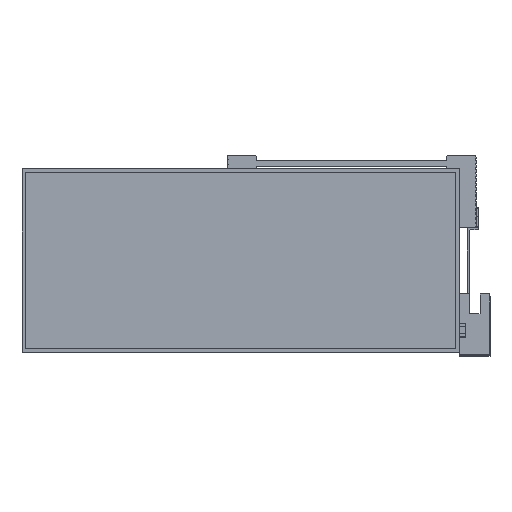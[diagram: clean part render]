
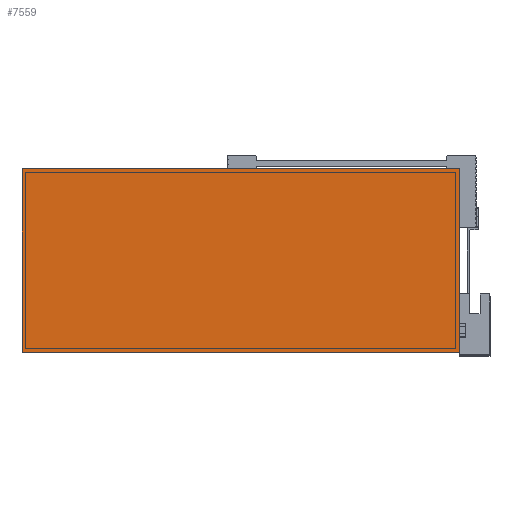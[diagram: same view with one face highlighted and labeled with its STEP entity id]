
A CAD part, top view. The second image highlights one B-rep face of the part: STEP entity #7559.
In plain terms, the highlighted planar face has unit normal (0, 0, 1) as drawn and (0, -1, 0) by its records, which use the part's own axes.
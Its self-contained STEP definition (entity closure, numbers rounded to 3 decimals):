
#488 = DIRECTION ( 'NONE',  ( -1., 0., 0. ) ) ;
#7559 = ADVANCED_FACE ( 'NONE', ( #91186 ), #42396, .T. ) ;
#8484 = CARTESIAN_POINT ( 'NONE',  ( -96.5, 0., 40.5 ) ) ;
#18245 = VERTEX_POINT ( 'NONE', #65041 ) ;
#19171 = DIRECTION ( 'NONE',  ( 1., 0., 0. ) ) ;
#22335 = EDGE_LOOP ( 'NONE', ( #120658, #116616, #103541, #30070 ) ) ;
#30070 = ORIENTED_EDGE ( 'NONE', *, *, #128594, .F. ) ;
#32696 = AXIS2_PLACEMENT_3D ( 'NONE', #53139, #127735, #63858 ) ;
#41482 = LINE ( 'NONE', #128295, #123249 ) ;
#41837 = EDGE_CURVE ( 'NONE', #74833, #18245, #98628, .T. ) ;
#42396 = PLANE ( 'NONE',  #32696 ) ;
#46329 = EDGE_CURVE ( 'NONE', #126027, #55170, #112134, .T. ) ;
#49087 = DIRECTION ( 'NONE',  ( 0., 0., -1. ) ) ;
#53139 = CARTESIAN_POINT ( 'NONE',  ( 0., 0., 0. ) ) ;
#55170 = VERTEX_POINT ( 'NONE', #137932 ) ;
#63858 = DIRECTION ( 'NONE',  ( 0., 0., -1. ) ) ;
#65041 = CARTESIAN_POINT ( 'NONE',  ( 96.5, 0., -40.5 ) ) ;
#74833 = VERTEX_POINT ( 'NONE', #135309 ) ;
#77161 = CARTESIAN_POINT ( 'NONE',  ( -96.5, 0., 40.5 ) ) ;
#81299 = CARTESIAN_POINT ( 'NONE',  ( 96.5, 0., 40.5 ) ) ;
#83370 = VECTOR ( 'NONE', #19171, 1000. ) ;
#83802 = VECTOR ( 'NONE', #120025, 1000. ) ;
#91186 = FACE_OUTER_BOUND ( 'NONE', #22335, .T. ) ;
#94658 = CARTESIAN_POINT ( 'NONE',  ( -96.5, 0., -40.5 ) ) ;
#98628 = LINE ( 'NONE', #81299, #123612 ) ;
#103541 = ORIENTED_EDGE ( 'NONE', *, *, #46329, .F. ) ;
#111711 = LINE ( 'NONE', #8484, #83370 ) ;
#112134 = LINE ( 'NONE', #77161, #83802 ) ;
#116616 = ORIENTED_EDGE ( 'NONE', *, *, #119605, .F. ) ;
#119605 = EDGE_CURVE ( 'NONE', #55170, #74833, #111711, .T. ) ;
#120025 = DIRECTION ( 'NONE',  ( 0., 0., 1. ) ) ;
#120658 = ORIENTED_EDGE ( 'NONE', *, *, #41837, .F. ) ;
#123249 = VECTOR ( 'NONE', #488, 1000. ) ;
#123612 = VECTOR ( 'NONE', #49087, 1000. ) ;
#126027 = VERTEX_POINT ( 'NONE', #94658 ) ;
#127735 = DIRECTION ( 'NONE',  ( 0., -1., 0. ) ) ;
#128295 = CARTESIAN_POINT ( 'NONE',  ( -96.5, 0., -40.5 ) ) ;
#128594 = EDGE_CURVE ( 'NONE', #18245, #126027, #41482, .T. ) ;
#135309 = CARTESIAN_POINT ( 'NONE',  ( 96.5, 0., 40.5 ) ) ;
#137932 = CARTESIAN_POINT ( 'NONE',  ( -96.5, 0., 40.5 ) ) ;
